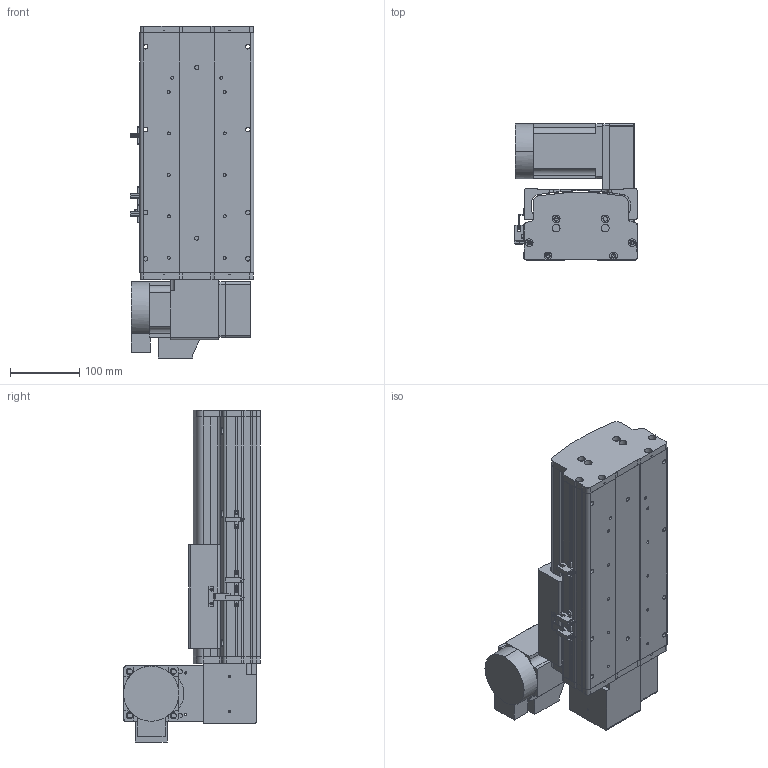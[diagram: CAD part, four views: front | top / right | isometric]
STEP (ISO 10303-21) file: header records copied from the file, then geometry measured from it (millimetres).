
FILE_DESCRIPTION (( 'STEP AP214' ), '1' );
FILE_NAME ('KSD165B-S100-MRU-CM.STEP', '2017-10-17T01:52:23', ( '微软用户' ), ( '微软中国' ), 'SwSTEP 2.0', 'SolidWorks 2014', '' );
FILE_SCHEMA (( 'AUTOMOTIVE_DESIGN' ));
Length unit declared in the file: millimetre
Products named in the file (17): KSD165模组同步带底板-100行程-最新; 拸秶雄ん750W侜督萇儂; 165宽马达安装板同步带右; U倰嫖萇假蚾璃; U倰嫖萇EEㄜSX672; 覜茼え68遵圉猾敕; KSD165模组-同步带-防撞垫2; KSD165模组同步带-防撞垫1; KSD165耀郪-ヶ傷啣1-肮祭湍; KSD165模组-后端板1-同步带; KSD165模组-同步带滑动座-最新版; KSD165B-S100-MRU-CM; 130宽模组马达安装板连板上下折丝杆同步带; 130宽模组保护罩上下左右折-同步带; HTPA26S5M250-A-H8 750W萇儂蚚; HTPA26S5M250-A-H8 400W萇儂蚚 ; KSD165模组-同步带防尘盖1-100行程-最新版
Assembly tree (20 placements, depth 2):
  KSD165B-S100-MRU-CM
    KSD165模组-同步带滑动座-最新版
    KSD165模组-后端板1-同步带
    KSD165耀郪-ヶ傷啣1-肮祭湍
    KSD165模组同步带-防撞垫1
    KSD165模组-同步带-防撞垫2
    覜茼え68遵圉猾敕
    U倰嫖萇EEㄜSX672  x3
    U倰嫖萇假蚾璃  x3
    165宽马达安装板同步带右
    拸秶雄ん750W侜督萇儂
    KSD165模组同步带底板-100行程-最新
    KSD165模组-同步带防尘盖1-100行程-最新版
    HTPA26S5M250-A-H8 400W萇儂蚚 
    HTPA26S5M250-A-H8 750W萇儂蚚
    130宽模组保护罩上下左右折-同步带
    130宽模组马达安装板连板上下折丝杆同步带
Bounding box: 178.7 x 198 x 480.5 mm (x, y, z)
Volume: 3852232.8 mm3; surface area: 885694.2 mm2
Topology: 21 solids, 21 shells, 1845 faces, 5190 edges, 3384 vertices
Faces by surface type: cylinder 1159, plane 574, cone 112
Entity records: 58780 total; most frequent: CARTESIAN_POINT 12064, DIRECTION 9754, ORIENTED_EDGE 9040, EDGE_CURVE 4520, AXIS2_PLACEMENT_3D 3808, VERTEX_POINT 2976, CIRCLE 2160, LINE 2138
